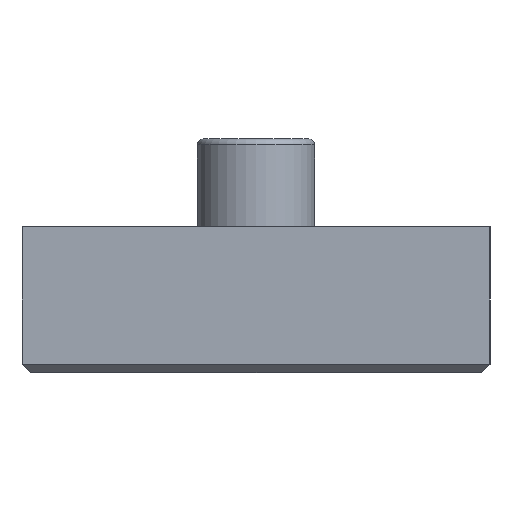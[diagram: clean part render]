
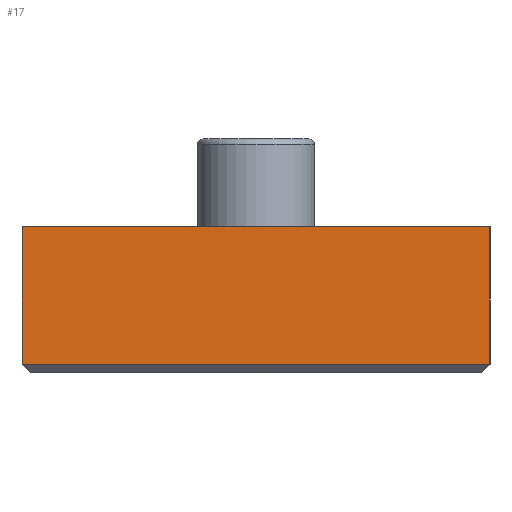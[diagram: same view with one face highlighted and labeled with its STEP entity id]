
A CAD part, left-side view. The second image highlights one B-rep face of the part: STEP entity #17.
In plain terms, the highlighted planar face has unit normal (-1, 0, 0).
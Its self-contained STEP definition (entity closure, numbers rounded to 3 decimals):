
#17 = ADVANCED_FACE('',(#18),#32,.F.);
#18 = FACE_BOUND('',#19,.F.);
#19 = EDGE_LOOP('',(#20,#55,#83,#111));
#20 = ORIENTED_EDGE('',*,*,#21,.F.);
#21 = EDGE_CURVE('',#22,#24,#26,.T.);
#22 = VERTEX_POINT('',#23);
#23 = CARTESIAN_POINT('',(-50.,-40.,-11.));
#24 = VERTEX_POINT('',#25);
#25 = CARTESIAN_POINT('',(-50.,-40.,12.5));
#26 = SURFACE_CURVE('',#27,(#31,#43),.PCURVE_S1.);
#27 = LINE('',#28,#29);
#28 = CARTESIAN_POINT('',(-50.,-40.,-12.5));
#29 = VECTOR('',#30,1.);
#30 = DIRECTION('',(0.,0.,1.));
#31 = PCURVE('',#32,#37);
#32 = PLANE('',#33);
#33 = AXIS2_PLACEMENT_3D('',#34,#35,#36);
#34 = CARTESIAN_POINT('',(-50.,-40.,-12.5));
#35 = DIRECTION('',(1.,0.,0.));
#36 = DIRECTION('',(0.,0.,1.));
#37 = DEFINITIONAL_REPRESENTATION('',(#38),#42);
#38 = LINE('',#39,#40);
#39 = CARTESIAN_POINT('',(0.,0.));
#40 = VECTOR('',#41,1.);
#41 = DIRECTION('',(1.,0.));
#42 = ( GEOMETRIC_REPRESENTATION_CONTEXT(2) 
PARAMETRIC_REPRESENTATION_CONTEXT() REPRESENTATION_CONTEXT('2D SPACE',''
  ) );
#43 = PCURVE('',#44,#49);
#44 = PLANE('',#45);
#45 = AXIS2_PLACEMENT_3D('',#46,#47,#48);
#46 = CARTESIAN_POINT('',(-50.,-40.,-12.5));
#47 = DIRECTION('',(0.,1.,0.));
#48 = DIRECTION('',(0.,0.,1.));
#49 = DEFINITIONAL_REPRESENTATION('',(#50),#54);
#50 = LINE('',#51,#52);
#51 = CARTESIAN_POINT('',(0.,0.));
#52 = VECTOR('',#53,1.);
#53 = DIRECTION('',(1.,0.));
#54 = ( GEOMETRIC_REPRESENTATION_CONTEXT(2) 
PARAMETRIC_REPRESENTATION_CONTEXT() REPRESENTATION_CONTEXT('2D SPACE',''
  ) );
#55 = ORIENTED_EDGE('',*,*,#56,.T.);
#56 = EDGE_CURVE('',#22,#57,#59,.T.);
#57 = VERTEX_POINT('',#58);
#58 = CARTESIAN_POINT('',(-50.,40.,-11.));
#59 = SURFACE_CURVE('',#60,(#64,#71),.PCURVE_S1.);
#60 = LINE('',#61,#62);
#61 = CARTESIAN_POINT('',(-50.,-40.,-11.));
#62 = VECTOR('',#63,1.);
#63 = DIRECTION('',(0.,1.,0.));
#64 = PCURVE('',#32,#65);
#65 = DEFINITIONAL_REPRESENTATION('',(#66),#70);
#66 = LINE('',#67,#68);
#67 = CARTESIAN_POINT('',(1.5,0.));
#68 = VECTOR('',#69,1.);
#69 = DIRECTION('',(0.,-1.));
#70 = ( GEOMETRIC_REPRESENTATION_CONTEXT(2) 
PARAMETRIC_REPRESENTATION_CONTEXT() REPRESENTATION_CONTEXT('2D SPACE',''
  ) );
#71 = PCURVE('',#72,#77);
#72 = PLANE('',#73);
#73 = AXIS2_PLACEMENT_3D('',#74,#75,#76);
#74 = CARTESIAN_POINT('',(-49.25,-40.,-11.75));
#75 = DIRECTION('',(-0.707,0.,-0.707));
#76 = DIRECTION('',(0.,1.,0.));
#77 = DEFINITIONAL_REPRESENTATION('',(#78),#82);
#78 = LINE('',#79,#80);
#79 = CARTESIAN_POINT('',(0.,-1.061));
#80 = VECTOR('',#81,1.);
#81 = DIRECTION('',(1.,0.));
#82 = ( GEOMETRIC_REPRESENTATION_CONTEXT(2) 
PARAMETRIC_REPRESENTATION_CONTEXT() REPRESENTATION_CONTEXT('2D SPACE',''
  ) );
#83 = ORIENTED_EDGE('',*,*,#84,.T.);
#84 = EDGE_CURVE('',#57,#85,#87,.T.);
#85 = VERTEX_POINT('',#86);
#86 = CARTESIAN_POINT('',(-50.,40.,12.5));
#87 = SURFACE_CURVE('',#88,(#92,#99),.PCURVE_S1.);
#88 = LINE('',#89,#90);
#89 = CARTESIAN_POINT('',(-50.,40.,-12.5));
#90 = VECTOR('',#91,1.);
#91 = DIRECTION('',(0.,0.,1.));
#92 = PCURVE('',#32,#93);
#93 = DEFINITIONAL_REPRESENTATION('',(#94),#98);
#94 = LINE('',#95,#96);
#95 = CARTESIAN_POINT('',(0.,-80.));
#96 = VECTOR('',#97,1.);
#97 = DIRECTION('',(1.,0.));
#98 = ( GEOMETRIC_REPRESENTATION_CONTEXT(2) 
PARAMETRIC_REPRESENTATION_CONTEXT() REPRESENTATION_CONTEXT('2D SPACE',''
  ) );
#99 = PCURVE('',#100,#105);
#100 = PLANE('',#101);
#101 = AXIS2_PLACEMENT_3D('',#102,#103,#104);
#102 = CARTESIAN_POINT('',(-50.,40.,-12.5));
#103 = DIRECTION('',(0.,1.,0.));
#104 = DIRECTION('',(0.,0.,1.));
#105 = DEFINITIONAL_REPRESENTATION('',(#106),#110);
#106 = LINE('',#107,#108);
#107 = CARTESIAN_POINT('',(0.,0.));
#108 = VECTOR('',#109,1.);
#109 = DIRECTION('',(1.,0.));
#110 = ( GEOMETRIC_REPRESENTATION_CONTEXT(2) 
PARAMETRIC_REPRESENTATION_CONTEXT() REPRESENTATION_CONTEXT('2D SPACE',''
  ) );
#111 = ORIENTED_EDGE('',*,*,#112,.F.);
#112 = EDGE_CURVE('',#24,#85,#113,.T.);
#113 = SURFACE_CURVE('',#114,(#118,#125),.PCURVE_S1.);
#114 = LINE('',#115,#116);
#115 = CARTESIAN_POINT('',(-50.,-40.,12.5));
#116 = VECTOR('',#117,1.);
#117 = DIRECTION('',(0.,1.,0.));
#118 = PCURVE('',#32,#119);
#119 = DEFINITIONAL_REPRESENTATION('',(#120),#124);
#120 = LINE('',#121,#122);
#121 = CARTESIAN_POINT('',(25.,0.));
#122 = VECTOR('',#123,1.);
#123 = DIRECTION('',(0.,-1.));
#124 = ( GEOMETRIC_REPRESENTATION_CONTEXT(2) 
PARAMETRIC_REPRESENTATION_CONTEXT() REPRESENTATION_CONTEXT('2D SPACE',''
  ) );
#125 = PCURVE('',#126,#131);
#126 = PLANE('',#127);
#127 = AXIS2_PLACEMENT_3D('',#128,#129,#130);
#128 = CARTESIAN_POINT('',(-50.,-40.,12.5));
#129 = DIRECTION('',(0.,0.,1.));
#130 = DIRECTION('',(1.,0.,0.));
#131 = DEFINITIONAL_REPRESENTATION('',(#132),#136);
#132 = LINE('',#133,#134);
#133 = CARTESIAN_POINT('',(0.,0.));
#134 = VECTOR('',#135,1.);
#135 = DIRECTION('',(0.,1.));
#136 = ( GEOMETRIC_REPRESENTATION_CONTEXT(2) 
PARAMETRIC_REPRESENTATION_CONTEXT() REPRESENTATION_CONTEXT('2D SPACE',''
  ) );
